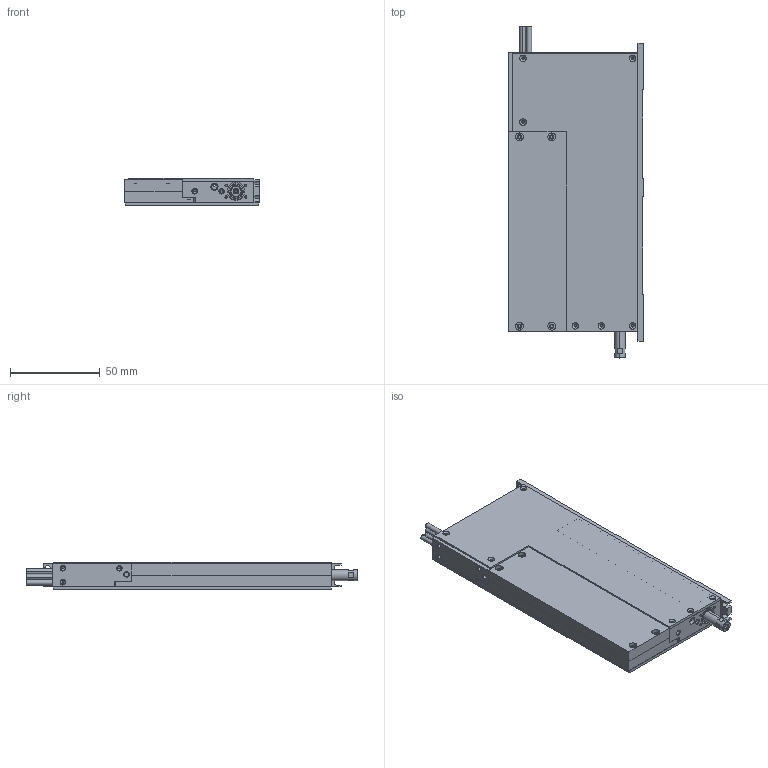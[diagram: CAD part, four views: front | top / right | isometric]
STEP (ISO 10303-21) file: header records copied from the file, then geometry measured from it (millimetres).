
FILE_DESCRIPTION (( 'STEP AP203' ), '1' );
FILE_NAME ('LCR16-025-XX-2_B.STEP', '2019-04-18T18:21:03', ( '' ), ( '' ), 'SwSTEP 2.0', 'SolidWorks 2018', '' );
FILE_SCHEMA (( 'CONFIG_CONTROL_DESIGN' ));
Length unit declared in the file: millimetre
Products named in the file (10): LCR13 DUM CABLE; 23641-01_B; 14720-26_E; 14720-25_F; 23641-02_C; 16594-10_B; 24658-02_A; LCR16-025-XX-2_B; 180101-01_B; 11632-25_L
Assembly tree (10 placements, depth 2):
  LCR16-025-XX-2_B
    11632-25_L
    24658-02_A
    LCR13 DUM CABLE  x2
    180101-01_B
    14720-26_E
    14720-25_F
    16594-10_B
    23641-02_C
    23641-01_B
Bounding box: 75 x 184.9 x 15.4 mm (x, y, z)
Volume: 78524 mm3; surface area: 87461.6 mm2
Topology: 14 solids, 14 shells, 724 faces, 1879 edges, 1161 vertices
Faces by surface type: cylinder 301, plane 232, cone 189, torus 2
Entity records: 22993 total; most frequent: DIRECTION 3977, CARTESIAN_POINT 3881, ORIENTED_EDGE 3610, EDGE_CURVE 1805, AXIS2_PLACEMENT_3D 1475, VERTEX_POINT 1145, LINE 1027, VECTOR 1027
